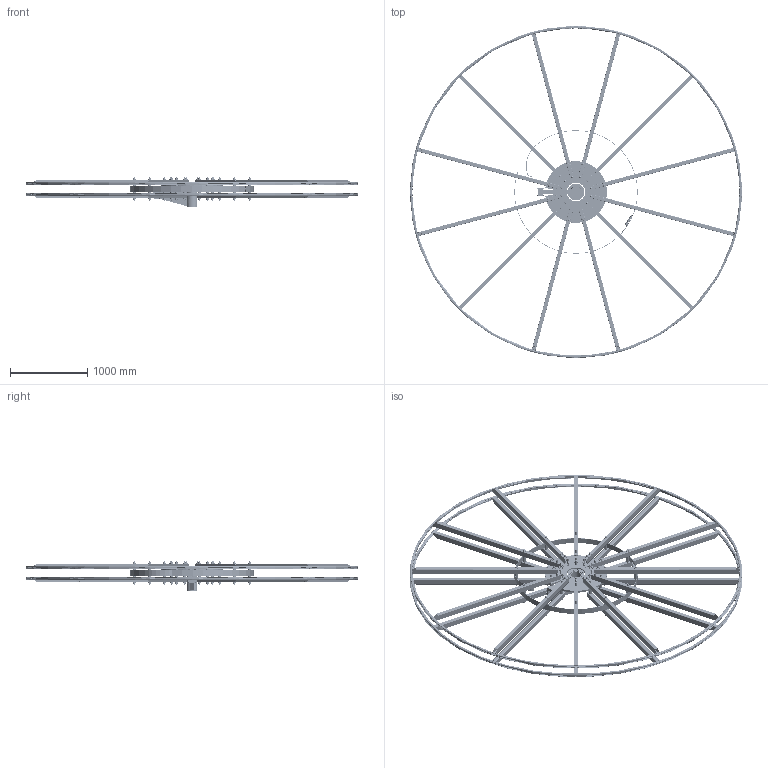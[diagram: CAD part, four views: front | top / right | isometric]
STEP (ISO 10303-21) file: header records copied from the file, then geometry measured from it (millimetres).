
FILE_DESCRIPTION(/* description */ (''),/* implementation_level */ '2;1');
FILE_NAME(/* name */ 'K:\NEMANJA\CABLE REEL\SPOOL\0700-6\07006001 SGF-SGR\FLAT\41309.stp',/* time_stamp */ '2017-03-15T15:46:19+01:00',/* author */ ('vlakrc01'),/* organization */ (''),/* preprocessor_version */ 'ST-DEVELOPER v16.1',/* originating_system */ 'Autodesk Inventor 2016',/* authorisation */ '');
FILE_SCHEMA (('AUTOMOTIVE_DESIGN { 1 0 10303 214 3 1 1 }'));
Products named in the file (1): 41309
Bounding box: 4300 x 4300 x 382.68 mm (x, y, z)
Volume: 61963718 mm3; surface area: 30980216.2 mm2
Topology: 2 solids, 2 shells, 6910 faces, 17855 edges, 11491 vertices
Faces by surface type: plane 3912, cylinder 2159, cone 765, torus 72, bspline 2
Full cylindrical faces by diameter (mm): 9.5 x120, 10 x124, 10.5 x124, 11 x36, 12 x18, 13 x12, 13.5 x6, 15.6 x6, 16 x154, 17 x134, 17.4 x6, 17.5 x24, 18 x24, 19 x2, 20 x148, 21 x80, 22 x12, 22.5 x73, 24 x6, 26.5 x60, 27.7 x12, 28.2 x12, 30 x13, 33.5 x60, 35 x2, 37 x24, 38 x24, 40 x60, 128 x1, 142 x1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
Entity records: 213325 total; most frequent: CARTESIAN_POINT 56759, DIRECTION 30461, ORIENTED_EDGE 29986, EDGE_CURVE 14898, AXIS2_PLACEMENT_3D 12328, EDGE_LOOP 10555, VERTEX_POINT 10506, FACE_OUTER_BOUND 6909
